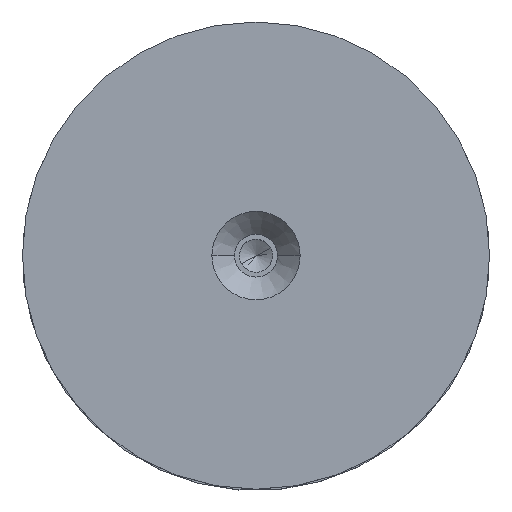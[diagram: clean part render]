
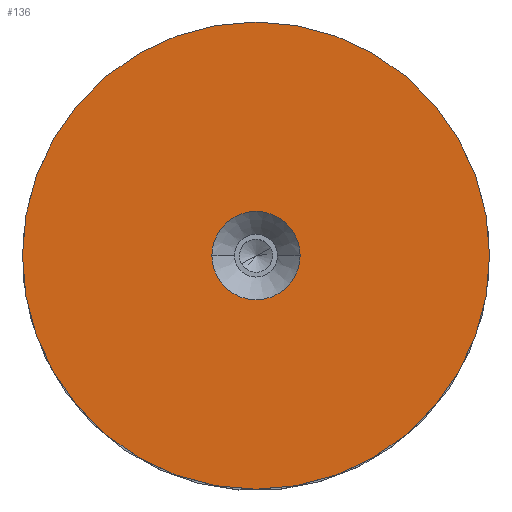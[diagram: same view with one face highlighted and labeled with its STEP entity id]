
A CAD part, top view. The second image highlights one B-rep face of the part: STEP entity #136.
In plain terms, the highlighted planar face has unit normal (0, 0, 1).
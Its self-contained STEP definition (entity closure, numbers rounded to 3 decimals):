
#3 = DIRECTION ( 'NONE',  ( 0., 0., -1. ) ) ;
#18 = EDGE_CURVE ( 'NONE', #312, #133, #80, .T. ) ;
#19 = ORIENTED_EDGE ( 'NONE', *, *, #575, .T. ) ;
#31 = FACE_BOUND ( 'NONE', #359, .T. ) ;
#46 = AXIS2_PLACEMENT_3D ( 'NONE', #838, #706, #252 ) ;
#80 = CIRCLE ( 'NONE', #802, 11.35 ) ;
#87 = CARTESIAN_POINT ( 'NONE',  ( 60., 0., 10. ) ) ;
#106 = VERTEX_POINT ( 'NONE', #657 ) ;
#122 = DIRECTION ( 'NONE',  ( 1., 0., 0. ) ) ;
#133 = VERTEX_POINT ( 'NONE', #692 ) ;
#136 = ADVANCED_FACE ( 'NONE', ( #31, #659 ), #424, .T. ) ;
#176 = ORIENTED_EDGE ( 'NONE', *, *, #736, .T. ) ;
#196 = CIRCLE ( 'NONE', #551, 60. ) ;
#202 = ORIENTED_EDGE ( 'NONE', *, *, #18, .T. ) ;
#227 = ORIENTED_EDGE ( 'NONE', *, *, #621, .T. ) ;
#252 = DIRECTION ( 'NONE',  ( 1., 0., 0. ) ) ;
#311 = VERTEX_POINT ( 'NONE', #87 ) ;
#312 = VERTEX_POINT ( 'NONE', #540 ) ;
#315 = CARTESIAN_POINT ( 'NONE',  ( 0., 0., 10. ) ) ;
#327 = AXIS2_PLACEMENT_3D ( 'NONE', #315, #3, #122 ) ;
#359 = EDGE_LOOP ( 'NONE', ( #202, #176 ) ) ;
#368 = DIRECTION ( 'NONE',  ( 0., 0., -1. ) ) ;
#379 = CARTESIAN_POINT ( 'NONE',  ( 0., 0., 10. ) ) ;
#382 = CIRCLE ( 'NONE', #327, 11.35 ) ;
#424 = PLANE ( 'NONE',  #769 ) ;
#441 = DIRECTION ( 'NONE',  ( 1., 0., 0. ) ) ;
#461 = DIRECTION ( 'NONE',  ( 0., 0., 1. ) ) ;
#540 = CARTESIAN_POINT ( 'NONE',  ( 11.35, 0., 10. ) ) ;
#545 = DIRECTION ( 'NONE',  ( 0., 0., 1. ) ) ;
#551 = AXIS2_PLACEMENT_3D ( 'NONE', #663, #545, #571 ) ;
#553 = EDGE_LOOP ( 'NONE', ( #227, #19 ) ) ;
#560 = DIRECTION ( 'NONE',  ( 1., 0., 0. ) ) ;
#566 = CIRCLE ( 'NONE', #46, 60. ) ;
#571 = DIRECTION ( 'NONE',  ( 1., 0., 0. ) ) ;
#575 = EDGE_CURVE ( 'NONE', #311, #106, #196, .T. ) ;
#621 = EDGE_CURVE ( 'NONE', #106, #311, #566, .T. ) ;
#657 = CARTESIAN_POINT ( 'NONE',  ( -60., 0., 10. ) ) ;
#659 = FACE_OUTER_BOUND ( 'NONE', #553, .T. ) ;
#663 = CARTESIAN_POINT ( 'NONE',  ( 0., 0., 10. ) ) ;
#675 = CARTESIAN_POINT ( 'NONE',  ( 0., 0., 10. ) ) ;
#692 = CARTESIAN_POINT ( 'NONE',  ( -11.35, 0., 10. ) ) ;
#706 = DIRECTION ( 'NONE',  ( 0., 0., 1. ) ) ;
#736 = EDGE_CURVE ( 'NONE', #133, #312, #382, .T. ) ;
#769 = AXIS2_PLACEMENT_3D ( 'NONE', #675, #461, #560 ) ;
#802 = AXIS2_PLACEMENT_3D ( 'NONE', #379, #368, #441 ) ;
#838 = CARTESIAN_POINT ( 'NONE',  ( 0., 0., 10. ) ) ;
